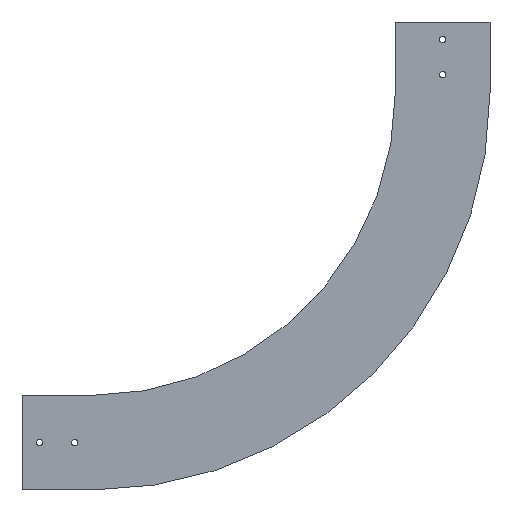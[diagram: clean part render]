
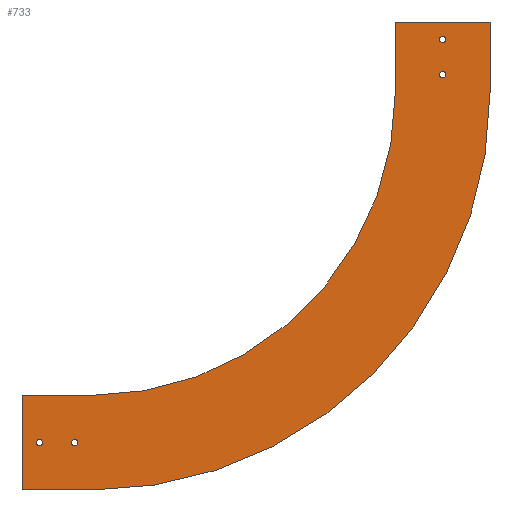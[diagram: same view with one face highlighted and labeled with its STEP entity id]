
A CAD part, left-side view. The second image highlights one B-rep face of the part: STEP entity #733.
In plain terms, the highlighted planar face has unit normal (-1, 0, 0).
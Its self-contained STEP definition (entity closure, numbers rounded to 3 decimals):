
#29 = AXIS2_PLACEMENT_3D ( 'NONE', #1597, #1603, #1605 ) ;
#53 = AXIS2_PLACEMENT_3D ( 'NONE', #2006, #2004, #2003 ) ;
#89 = AXIS2_PLACEMENT_3D ( 'NONE', #2268, #2267, #2266 ) ;
#94 = AXIS2_PLACEMENT_3D ( 'NONE', #2216, #2215, #2214 ) ;
#96 = AXIS2_PLACEMENT_3D ( 'NONE', #2036, #2034, #2033 ) ;
#99 = AXIS2_PLACEMENT_3D ( 'NONE', #2021, #2020, #2018 ) ;
#130 = AXIS2_PLACEMENT_3D ( 'NONE', #2304, #2303, #2302 ) ;
#176 = AXIS2_PLACEMENT_3D ( 'NONE', #2206, #2204, #2203 ) ;
#178 = AXIS2_PLACEMENT_3D ( 'NONE', #2209, #2208, #2207 ) ;
#182 = AXIS2_PLACEMENT_3D ( 'NONE', #1990, #1989, #1988 ) ;
#202 = AXIS2_PLACEMENT_3D ( 'NONE', #1618, #1644, #1645 ) ;
#213 = EDGE_LOOP ( 'NONE', ( #369, #370 ) ) ;
#214 = EDGE_LOOP ( 'NONE', ( #367, #368 ) ) ;
#215 = EDGE_LOOP ( 'NONE', ( #365, #366 ) ) ;
#216 = EDGE_LOOP ( 'NONE', ( #373, #374, #375, #376, #377, #378, #379, #380 ) ) ;
#218 = EDGE_LOOP ( 'NONE', ( #371, #372 ) ) ;
#365 = ORIENTED_EDGE ( 'NONE', *, *, #1757, .F. ) ;
#366 = ORIENTED_EDGE ( 'NONE', *, *, #1839, .F. ) ;
#367 = ORIENTED_EDGE ( 'NONE', *, *, #1769, .F. ) ;
#368 = ORIENTED_EDGE ( 'NONE', *, *, #1843, .F. ) ;
#369 = ORIENTED_EDGE ( 'NONE', *, *, #1772, .F. ) ;
#370 = ORIENTED_EDGE ( 'NONE', *, *, #1847, .F. ) ;
#371 = ORIENTED_EDGE ( 'NONE', *, *, #1773, .F. ) ;
#372 = ORIENTED_EDGE ( 'NONE', *, *, #1851, .F. ) ;
#373 = ORIENTED_EDGE ( 'NONE', *, *, #1774, .F. ) ;
#374 = ORIENTED_EDGE ( 'NONE', *, *, #1775, .F. ) ;
#375 = ORIENTED_EDGE ( 'NONE', *, *, #1896, .T. ) ;
#376 = ORIENTED_EDGE ( 'NONE', *, *, #1868, .T. ) ;
#377 = ORIENTED_EDGE ( 'NONE', *, *, #1776, .T. ) ;
#378 = ORIENTED_EDGE ( 'NONE', *, *, #1862, .F. ) ;
#379 = ORIENTED_EDGE ( 'NONE', *, *, #1892, .F. ) ;
#380 = ORIENTED_EDGE ( 'NONE', *, *, #1756, .T. ) ;
#733 = ADVANCED_FACE ( 'NONE', ( #1370, #1369, #1368, #1367, #1366 ), #2305, .T. ) ;
#822 = CIRCLE ( 'NONE', #29, 432.5 ) ;
#828 = CIRCLE ( 'NONE', #202, 567.5 ) ;
#880 = VECTOR ( 'NONE', #1939, 1000. ) ;
#881 = LINE ( 'NONE', #1940, #880 ) ;
#892 = VECTOR ( 'NONE', #1956, 1000. ) ;
#893 = LINE ( 'NONE', #1957, #892 ) ;
#917 = CIRCLE ( 'NONE', #182, 4.5 ) ;
#925 = CIRCLE ( 'NONE', #53, 4.5 ) ;
#932 = CIRCLE ( 'NONE', #99, 4.5 ) ;
#938 = CIRCLE ( 'NONE', #96, 4.5 ) ;
#1075 = VECTOR ( 'NONE', #2194, 1000. ) ;
#1076 = LINE ( 'NONE', #2196, #1075 ) ;
#1077 = VECTOR ( 'NONE', #2197, 1000. ) ;
#1079 = LINE ( 'NONE', #2198, #1077 ) ;
#1080 = VECTOR ( 'NONE', #2200, 1000. ) ;
#1081 = CIRCLE ( 'NONE', #176, 4.5 ) ;
#1082 = LINE ( 'NONE', #2202, #1080 ) ;
#1083 = CIRCLE ( 'NONE', #178, 4.5 ) ;
#1087 = CIRCLE ( 'NONE', #94, 4.5 ) ;
#1106 = CIRCLE ( 'NONE', #89, 4.5 ) ;
#1108 = VECTOR ( 'NONE', #2269, 1000. ) ;
#1110 = LINE ( 'NONE', #2270, #1108 ) ;
#1366 = FACE_OUTER_BOUND ( 'NONE', #216, .T. ) ;
#1367 = FACE_BOUND ( 'NONE', #218, .T. ) ;
#1368 = FACE_BOUND ( 'NONE', #213, .T. ) ;
#1369 = FACE_BOUND ( 'NONE', #214, .T. ) ;
#1370 = FACE_BOUND ( 'NONE', #215, .T. ) ;
#1490 = CARTESIAN_POINT ( 'NONE',  ( -43., 575., -604.5 ) ) ;
#1493 = CARTESIAN_POINT ( 'NONE',  ( -43., 600., -667.5 ) ) ;
#1498 = CARTESIAN_POINT ( 'NONE',  ( -43., 0., -20.5 ) ) ;
#1505 = CARTESIAN_POINT ( 'NONE',  ( -43., 600., -532.5 ) ) ;
#1509 = CARTESIAN_POINT ( 'NONE',  ( -43., 0., -29.5 ) ) ;
#1597 = CARTESIAN_POINT ( 'NONE',  ( -43., 500., -100. ) ) ;
#1603 = DIRECTION ( 'NONE',  ( 1., 0., 0. ) ) ;
#1605 = DIRECTION ( 'NONE',  ( 0., 0., -1. ) ) ;
#1618 = CARTESIAN_POINT ( 'NONE',  ( -43., 500., -100. ) ) ;
#1619 = CARTESIAN_POINT ( 'NONE',  ( -43., 67.5, -100. ) ) ;
#1622 = CARTESIAN_POINT ( 'NONE',  ( -43., 500., -667.5 ) ) ;
#1634 = CARTESIAN_POINT ( 'NONE',  ( -43., 500., -532.5 ) ) ;
#1644 = DIRECTION ( 'NONE',  ( 1., 0., 0. ) ) ;
#1645 = DIRECTION ( 'NONE',  ( 0., 0., -1. ) ) ;
#1647 = CARTESIAN_POINT ( 'NONE',  ( -43., -67.5, 0. ) ) ;
#1649 = CARTESIAN_POINT ( 'NONE',  ( -43., 0., -70.5 ) ) ;
#1650 = CARTESIAN_POINT ( 'NONE',  ( -43., 575., -595.5 ) ) ;
#1668 = CARTESIAN_POINT ( 'NONE',  ( -43., 525., -595.5 ) ) ;
#1672 = CARTESIAN_POINT ( 'NONE',  ( -43., 525., -604.5 ) ) ;
#1678 = CARTESIAN_POINT ( 'NONE',  ( -43., 0., -79.5 ) ) ;
#1682 = CARTESIAN_POINT ( 'NONE',  ( -43., -67.5, -100. ) ) ;
#1688 = CARTESIAN_POINT ( 'NONE',  ( -43., 67.5, 0. ) ) ;
#1756 = EDGE_CURVE ( 'NONE', #2330, #2430, #1110, .T. ) ;
#1757 = EDGE_CURVE ( 'NONE', #2356, #2477, #1106, .T. ) ;
#1769 = EDGE_CURVE ( 'NONE', #2316, #2776, #1087, .T. ) ;
#1772 = EDGE_CURVE ( 'NONE', #2534, #2545, #1083, .T. ) ;
#1773 = EDGE_CURVE ( 'NONE', #2753, #2660, #1081, .T. ) ;
#1774 = EDGE_CURVE ( 'NONE', #2394, #2430, #1082, .T. ) ;
#1775 = EDGE_CURVE ( 'NONE', #2364, #2394, #1079, .T. ) ;
#1776 = EDGE_CURVE ( 'NONE', #2725, #2766, #1076, .T. ) ;
#1839 = EDGE_CURVE ( 'NONE', #2477, #2356, #938, .T. ) ;
#1843 = EDGE_CURVE ( 'NONE', #2776, #2316, #932, .T. ) ;
#1847 = EDGE_CURVE ( 'NONE', #2545, #2534, #925, .T. ) ;
#1851 = EDGE_CURVE ( 'NONE', #2660, #2753, #917, .T. ) ;
#1862 = EDGE_CURVE ( 'NONE', #2319, #2766, #893, .T. ) ;
#1868 = EDGE_CURVE ( 'NONE', #2249, #2725, #881, .T. ) ;
#1892 = EDGE_CURVE ( 'NONE', #2330, #2319, #828, .T. ) ;
#1896 = EDGE_CURVE ( 'NONE', #2364, #2249, #822, .T. ) ;
#1939 = DIRECTION ( 'NONE',  ( 0., 1., 0. ) ) ;
#1940 = CARTESIAN_POINT ( 'NONE',  ( -43., 500., -532.5 ) ) ;
#1956 = DIRECTION ( 'NONE',  ( 0., 1., 0. ) ) ;
#1957 = CARTESIAN_POINT ( 'NONE',  ( -43., 500., -667.5 ) ) ;
#1988 = DIRECTION ( 'NONE',  ( 0., 0., 1. ) ) ;
#1989 = DIRECTION ( 'NONE',  ( -1., 0., 0. ) ) ;
#1990 = CARTESIAN_POINT ( 'NONE',  ( -43., 0., -25. ) ) ;
#2003 = DIRECTION ( 'NONE',  ( 0., 0., 1. ) ) ;
#2004 = DIRECTION ( 'NONE',  ( -1., 0., 0. ) ) ;
#2006 = CARTESIAN_POINT ( 'NONE',  ( -43., 525., -600. ) ) ;
#2018 = DIRECTION ( 'NONE',  ( 0., 0., 1. ) ) ;
#2020 = DIRECTION ( 'NONE',  ( -1., 0., 0. ) ) ;
#2021 = CARTESIAN_POINT ( 'NONE',  ( -43., 575., -600. ) ) ;
#2033 = DIRECTION ( 'NONE',  ( 0., 0., 1. ) ) ;
#2034 = DIRECTION ( 'NONE',  ( -1., 0., 0. ) ) ;
#2036 = CARTESIAN_POINT ( 'NONE',  ( -43., 0., -75. ) ) ;
#2194 = DIRECTION ( 'NONE',  ( 0., 0., -1. ) ) ;
#2196 = CARTESIAN_POINT ( 'NONE',  ( -43., 600., -667.5 ) ) ;
#2197 = DIRECTION ( 'NONE',  ( 0., 0., 1. ) ) ;
#2198 = CARTESIAN_POINT ( 'NONE',  ( -43., 67.5, -100. ) ) ;
#2200 = DIRECTION ( 'NONE',  ( 0., -1., 0. ) ) ;
#2202 = CARTESIAN_POINT ( 'NONE',  ( -43., -67.5, 0. ) ) ;
#2203 = DIRECTION ( 'NONE',  ( 0., 0., 1. ) ) ;
#2204 = DIRECTION ( 'NONE',  ( -1., 0., 0. ) ) ;
#2206 = CARTESIAN_POINT ( 'NONE',  ( -43., 0., -25. ) ) ;
#2207 = DIRECTION ( 'NONE',  ( 0., 0., 1. ) ) ;
#2208 = DIRECTION ( 'NONE',  ( -1., 0., 0. ) ) ;
#2209 = CARTESIAN_POINT ( 'NONE',  ( -43., 525., -600. ) ) ;
#2214 = DIRECTION ( 'NONE',  ( 0., 0., 1. ) ) ;
#2215 = DIRECTION ( 'NONE',  ( -1., 0., 0. ) ) ;
#2216 = CARTESIAN_POINT ( 'NONE',  ( -43., 575., -600. ) ) ;
#2249 = VERTEX_POINT ( 'NONE', #1634 ) ;
#2266 = DIRECTION ( 'NONE',  ( 0., 0., 1. ) ) ;
#2267 = DIRECTION ( 'NONE',  ( -1., 0., 0. ) ) ;
#2268 = CARTESIAN_POINT ( 'NONE',  ( -43., 0., -75. ) ) ;
#2269 = DIRECTION ( 'NONE',  ( 0., 0., 1. ) ) ;
#2270 = CARTESIAN_POINT ( 'NONE',  ( -43., -67.5, -100. ) ) ;
#2302 = DIRECTION ( 'NONE',  ( 0., 0., 1. ) ) ;
#2303 = DIRECTION ( 'NONE',  ( -1., 0., 0. ) ) ;
#2304 = CARTESIAN_POINT ( 'NONE',  ( -43., -67.5, -100. ) ) ;
#2305 = PLANE ( 'NONE',  #130 ) ;
#2316 = VERTEX_POINT ( 'NONE', #1650 ) ;
#2319 = VERTEX_POINT ( 'NONE', #1622 ) ;
#2330 = VERTEX_POINT ( 'NONE', #1682 ) ;
#2356 = VERTEX_POINT ( 'NONE', #1649 ) ;
#2364 = VERTEX_POINT ( 'NONE', #1619 ) ;
#2394 = VERTEX_POINT ( 'NONE', #1688 ) ;
#2430 = VERTEX_POINT ( 'NONE', #1647 ) ;
#2477 = VERTEX_POINT ( 'NONE', #1678 ) ;
#2534 = VERTEX_POINT ( 'NONE', #1668 ) ;
#2545 = VERTEX_POINT ( 'NONE', #1672 ) ;
#2660 = VERTEX_POINT ( 'NONE', #1509 ) ;
#2725 = VERTEX_POINT ( 'NONE', #1505 ) ;
#2753 = VERTEX_POINT ( 'NONE', #1498 ) ;
#2766 = VERTEX_POINT ( 'NONE', #1493 ) ;
#2776 = VERTEX_POINT ( 'NONE', #1490 ) ;
